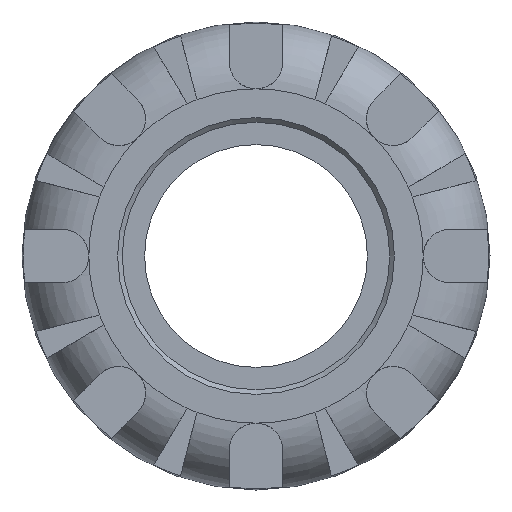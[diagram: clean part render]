
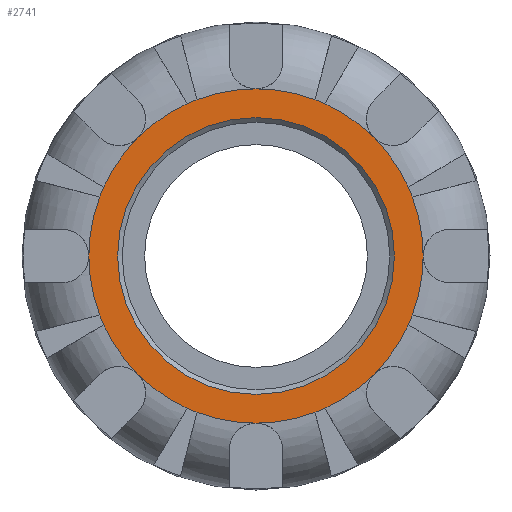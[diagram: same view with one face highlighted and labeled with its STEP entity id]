
A CAD part, left-side view. The second image highlights one B-rep face of the part: STEP entity #2741.
In plain terms, the highlighted planar face has unit normal (-1, 0, 0).
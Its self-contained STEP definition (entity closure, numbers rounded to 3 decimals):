
#22=FACE_BOUND('',#619,.T.);
#335=PLANE('',#2921);
#453=FACE_OUTER_BOUND('',#618,.T.);
#618=EDGE_LOOP('',(#1765,#1766,#1767,#1768,#1769,#1770,#1771,#1772,#1773,
#1774,#1775,#1776,#1777,#1778,#1779,#1780,#1781,#1782,#1783,#1784,#1785,
#1786,#1787,#1788));
#619=EDGE_LOOP('',(#1789));
#796=CIRCLE('',#2920,20.7);
#797=CIRCLE('',#2922,25.);
#798=CIRCLE('',#2923,25.);
#799=CIRCLE('',#2924,25.);
#800=CIRCLE('',#2925,25.);
#801=CIRCLE('',#2926,25.);
#802=CIRCLE('',#2927,25.);
#803=CIRCLE('',#2928,25.);
#804=CIRCLE('',#2929,25.);
#805=CIRCLE('',#2930,25.);
#806=CIRCLE('',#2931,25.);
#807=CIRCLE('',#2932,25.);
#808=CIRCLE('',#2933,25.);
#809=CIRCLE('',#2934,25.);
#810=CIRCLE('',#2935,25.);
#811=CIRCLE('',#2936,25.);
#812=CIRCLE('',#2937,25.);
#813=CIRCLE('',#2938,25.);
#814=CIRCLE('',#2939,25.);
#815=CIRCLE('',#2940,25.);
#816=CIRCLE('',#2941,25.);
#817=CIRCLE('',#2942,25.);
#818=CIRCLE('',#2943,25.);
#819=CIRCLE('',#2944,25.);
#820=CIRCLE('',#2945,25.);
#1066=VERTEX_POINT('',#4259);
#1067=VERTEX_POINT('',#4262);
#1068=VERTEX_POINT('',#4263);
#1069=VERTEX_POINT('',#4265);
#1070=VERTEX_POINT('',#4267);
#1071=VERTEX_POINT('',#4269);
#1072=VERTEX_POINT('',#4271);
#1073=VERTEX_POINT('',#4273);
#1074=VERTEX_POINT('',#4275);
#1075=VERTEX_POINT('',#4277);
#1076=VERTEX_POINT('',#4279);
#1077=VERTEX_POINT('',#4281);
#1078=VERTEX_POINT('',#4283);
#1079=VERTEX_POINT('',#4285);
#1080=VERTEX_POINT('',#4287);
#1081=VERTEX_POINT('',#4289);
#1082=VERTEX_POINT('',#4291);
#1083=VERTEX_POINT('',#4293);
#1084=VERTEX_POINT('',#4295);
#1085=VERTEX_POINT('',#4297);
#1086=VERTEX_POINT('',#4299);
#1087=VERTEX_POINT('',#4301);
#1088=VERTEX_POINT('',#4303);
#1089=VERTEX_POINT('',#4305);
#1090=VERTEX_POINT('',#4307);
#1336=EDGE_CURVE('',#1066,#1066,#796,.T.);
#1337=EDGE_CURVE('',#1067,#1068,#797,.T.);
#1338=EDGE_CURVE('',#1069,#1067,#798,.T.);
#1339=EDGE_CURVE('',#1070,#1069,#799,.T.);
#1340=EDGE_CURVE('',#1071,#1070,#800,.T.);
#1341=EDGE_CURVE('',#1072,#1071,#801,.T.);
#1342=EDGE_CURVE('',#1073,#1072,#802,.T.);
#1343=EDGE_CURVE('',#1074,#1073,#803,.T.);
#1344=EDGE_CURVE('',#1075,#1074,#804,.T.);
#1345=EDGE_CURVE('',#1076,#1075,#805,.T.);
#1346=EDGE_CURVE('',#1077,#1076,#806,.T.);
#1347=EDGE_CURVE('',#1078,#1077,#807,.T.);
#1348=EDGE_CURVE('',#1079,#1078,#808,.T.);
#1349=EDGE_CURVE('',#1080,#1079,#809,.T.);
#1350=EDGE_CURVE('',#1081,#1080,#810,.T.);
#1351=EDGE_CURVE('',#1082,#1081,#811,.T.);
#1352=EDGE_CURVE('',#1083,#1082,#812,.T.);
#1353=EDGE_CURVE('',#1084,#1083,#813,.T.);
#1354=EDGE_CURVE('',#1085,#1084,#814,.T.);
#1355=EDGE_CURVE('',#1086,#1085,#815,.T.);
#1356=EDGE_CURVE('',#1087,#1086,#816,.T.);
#1357=EDGE_CURVE('',#1088,#1087,#817,.T.);
#1358=EDGE_CURVE('',#1089,#1088,#818,.T.);
#1359=EDGE_CURVE('',#1090,#1089,#819,.T.);
#1360=EDGE_CURVE('',#1068,#1090,#820,.T.);
#1765=ORIENTED_EDGE('',*,*,#1337,.F.);
#1766=ORIENTED_EDGE('',*,*,#1338,.F.);
#1767=ORIENTED_EDGE('',*,*,#1339,.F.);
#1768=ORIENTED_EDGE('',*,*,#1340,.F.);
#1769=ORIENTED_EDGE('',*,*,#1341,.F.);
#1770=ORIENTED_EDGE('',*,*,#1342,.F.);
#1771=ORIENTED_EDGE('',*,*,#1343,.F.);
#1772=ORIENTED_EDGE('',*,*,#1344,.F.);
#1773=ORIENTED_EDGE('',*,*,#1345,.F.);
#1774=ORIENTED_EDGE('',*,*,#1346,.F.);
#1775=ORIENTED_EDGE('',*,*,#1347,.F.);
#1776=ORIENTED_EDGE('',*,*,#1348,.F.);
#1777=ORIENTED_EDGE('',*,*,#1349,.F.);
#1778=ORIENTED_EDGE('',*,*,#1350,.F.);
#1779=ORIENTED_EDGE('',*,*,#1351,.F.);
#1780=ORIENTED_EDGE('',*,*,#1352,.F.);
#1781=ORIENTED_EDGE('',*,*,#1353,.F.);
#1782=ORIENTED_EDGE('',*,*,#1354,.F.);
#1783=ORIENTED_EDGE('',*,*,#1355,.F.);
#1784=ORIENTED_EDGE('',*,*,#1356,.F.);
#1785=ORIENTED_EDGE('',*,*,#1357,.F.);
#1786=ORIENTED_EDGE('',*,*,#1358,.F.);
#1787=ORIENTED_EDGE('',*,*,#1359,.F.);
#1788=ORIENTED_EDGE('',*,*,#1360,.F.);
#1789=ORIENTED_EDGE('',*,*,#1336,.F.);
#2741=ADVANCED_FACE('',(#453,#22),#335,.T.);
#2920=AXIS2_PLACEMENT_3D('',#4260,#3271,#3272);
#2921=AXIS2_PLACEMENT_3D('',#4261,#3273,#3274);
#2922=AXIS2_PLACEMENT_3D('',#4264,#3275,#3276);
#2923=AXIS2_PLACEMENT_3D('',#4266,#3277,#3278);
#2924=AXIS2_PLACEMENT_3D('',#4268,#3279,#3280);
#2925=AXIS2_PLACEMENT_3D('',#4270,#3281,#3282);
#2926=AXIS2_PLACEMENT_3D('',#4272,#3283,#3284);
#2927=AXIS2_PLACEMENT_3D('',#4274,#3285,#3286);
#2928=AXIS2_PLACEMENT_3D('',#4276,#3287,#3288);
#2929=AXIS2_PLACEMENT_3D('',#4278,#3289,#3290);
#2930=AXIS2_PLACEMENT_3D('',#4280,#3291,#3292);
#2931=AXIS2_PLACEMENT_3D('',#4282,#3293,#3294);
#2932=AXIS2_PLACEMENT_3D('',#4284,#3295,#3296);
#2933=AXIS2_PLACEMENT_3D('',#4286,#3297,#3298);
#2934=AXIS2_PLACEMENT_3D('',#4288,#3299,#3300);
#2935=AXIS2_PLACEMENT_3D('',#4290,#3301,#3302);
#2936=AXIS2_PLACEMENT_3D('',#4292,#3303,#3304);
#2937=AXIS2_PLACEMENT_3D('',#4294,#3305,#3306);
#2938=AXIS2_PLACEMENT_3D('',#4296,#3307,#3308);
#2939=AXIS2_PLACEMENT_3D('',#4298,#3309,#3310);
#2940=AXIS2_PLACEMENT_3D('',#4300,#3311,#3312);
#2941=AXIS2_PLACEMENT_3D('',#4302,#3313,#3314);
#2942=AXIS2_PLACEMENT_3D('',#4304,#3315,#3316);
#2943=AXIS2_PLACEMENT_3D('',#4306,#3317,#3318);
#2944=AXIS2_PLACEMENT_3D('',#4308,#3319,#3320);
#2945=AXIS2_PLACEMENT_3D('',#4309,#3321,#3322);
#3271=DIRECTION('center_axis',(-1.,0.,0.));
#3272=DIRECTION('ref_axis',(0.,-1.,0.));
#3273=DIRECTION('center_axis',(-1.,0.,0.));
#3274=DIRECTION('ref_axis',(0.,0.,1.));
#3275=DIRECTION('center_axis',(1.,0.,0.));
#3276=DIRECTION('ref_axis',(0.,0.,-1.));
#3277=DIRECTION('center_axis',(1.,0.,0.));
#3278=DIRECTION('ref_axis',(0.,0.,-1.));
#3279=DIRECTION('center_axis',(1.,0.,0.));
#3280=DIRECTION('ref_axis',(0.,0.,-1.));
#3281=DIRECTION('center_axis',(1.,0.,0.));
#3282=DIRECTION('ref_axis',(0.,0.,-1.));
#3283=DIRECTION('center_axis',(1.,0.,0.));
#3284=DIRECTION('ref_axis',(0.,0.,-1.));
#3285=DIRECTION('center_axis',(1.,0.,0.));
#3286=DIRECTION('ref_axis',(0.,0.,-1.));
#3287=DIRECTION('center_axis',(1.,0.,0.));
#3288=DIRECTION('ref_axis',(0.,0.,-1.));
#3289=DIRECTION('center_axis',(1.,0.,0.));
#3290=DIRECTION('ref_axis',(0.,0.,-1.));
#3291=DIRECTION('center_axis',(1.,0.,0.));
#3292=DIRECTION('ref_axis',(0.,0.,-1.));
#3293=DIRECTION('center_axis',(1.,0.,0.));
#3294=DIRECTION('ref_axis',(0.,0.,-1.));
#3295=DIRECTION('center_axis',(1.,0.,0.));
#3296=DIRECTION('ref_axis',(0.,0.,-1.));
#3297=DIRECTION('center_axis',(1.,0.,0.));
#3298=DIRECTION('ref_axis',(0.,0.,-1.));
#3299=DIRECTION('center_axis',(1.,0.,0.));
#3300=DIRECTION('ref_axis',(0.,0.,-1.));
#3301=DIRECTION('center_axis',(1.,0.,0.));
#3302=DIRECTION('ref_axis',(0.,0.,-1.));
#3303=DIRECTION('center_axis',(1.,0.,0.));
#3304=DIRECTION('ref_axis',(0.,0.,-1.));
#3305=DIRECTION('center_axis',(1.,0.,0.));
#3306=DIRECTION('ref_axis',(0.,0.,-1.));
#3307=DIRECTION('center_axis',(1.,0.,0.));
#3308=DIRECTION('ref_axis',(0.,0.,-1.));
#3309=DIRECTION('center_axis',(1.,0.,0.));
#3310=DIRECTION('ref_axis',(0.,0.,-1.));
#3311=DIRECTION('center_axis',(1.,0.,0.));
#3312=DIRECTION('ref_axis',(0.,0.,-1.));
#3313=DIRECTION('center_axis',(1.,0.,0.));
#3314=DIRECTION('ref_axis',(0.,0.,-1.));
#3315=DIRECTION('center_axis',(1.,0.,0.));
#3316=DIRECTION('ref_axis',(0.,0.,-1.));
#3317=DIRECTION('center_axis',(1.,0.,0.));
#3318=DIRECTION('ref_axis',(0.,0.,-1.));
#3319=DIRECTION('center_axis',(1.,0.,0.));
#3320=DIRECTION('ref_axis',(0.,0.,-1.));
#3321=DIRECTION('center_axis',(1.,0.,0.));
#3322=DIRECTION('ref_axis',(0.,0.,-1.));
#4259=CARTESIAN_POINT('',(-71.,20.7,0.));
#4260=CARTESIAN_POINT('Origin',(-71.,0.,0.));
#4261=CARTESIAN_POINT('Origin',(-71.,25.,0.));
#4262=CARTESIAN_POINT('',(-71.,25.,0.));
#4263=CARTESIAN_POINT('',(-71.,23.391,8.823));
#4264=CARTESIAN_POINT('Origin',(-71.,0.,0.));
#4265=CARTESIAN_POINT('',(-71.,23.391,-8.823));
#4266=CARTESIAN_POINT('Origin',(-71.,0.,0.));
#4267=CARTESIAN_POINT('',(-71.,22.779,-10.301));
#4268=CARTESIAN_POINT('Origin',(-71.,0.,0.));
#4269=CARTESIAN_POINT('',(-71.,17.678,-17.678));
#4270=CARTESIAN_POINT('Origin',(-71.,0.,0.));
#4271=CARTESIAN_POINT('',(-71.,10.301,-22.779));
#4272=CARTESIAN_POINT('Origin',(-71.,0.,0.));
#4273=CARTESIAN_POINT('',(-71.,8.823,-23.391));
#4274=CARTESIAN_POINT('Origin',(-71.,0.,0.));
#4275=CARTESIAN_POINT('',(-71.,0.,-25.));
#4276=CARTESIAN_POINT('Origin',(-71.,0.,0.));
#4277=CARTESIAN_POINT('',(-71.,-8.823,-23.391));
#4278=CARTESIAN_POINT('Origin',(-71.,0.,0.));
#4279=CARTESIAN_POINT('',(-71.,-10.301,-22.779));
#4280=CARTESIAN_POINT('Origin',(-71.,0.,0.));
#4281=CARTESIAN_POINT('',(-71.,-17.678,-17.678));
#4282=CARTESIAN_POINT('Origin',(-71.,0.,0.));
#4283=CARTESIAN_POINT('',(-71.,-22.779,-10.301));
#4284=CARTESIAN_POINT('Origin',(-71.,0.,0.));
#4285=CARTESIAN_POINT('',(-71.,-23.391,-8.823));
#4286=CARTESIAN_POINT('Origin',(-71.,0.,0.));
#4287=CARTESIAN_POINT('',(-71.,-25.,0.));
#4288=CARTESIAN_POINT('Origin',(-71.,0.,0.));
#4289=CARTESIAN_POINT('',(-71.,-23.391,8.823));
#4290=CARTESIAN_POINT('Origin',(-71.,0.,0.));
#4291=CARTESIAN_POINT('',(-71.,-22.779,10.301));
#4292=CARTESIAN_POINT('Origin',(-71.,0.,0.));
#4293=CARTESIAN_POINT('',(-71.,-17.678,17.678));
#4294=CARTESIAN_POINT('Origin',(-71.,0.,0.));
#4295=CARTESIAN_POINT('',(-71.,-10.301,22.779));
#4296=CARTESIAN_POINT('Origin',(-71.,0.,0.));
#4297=CARTESIAN_POINT('',(-71.,-8.823,23.391));
#4298=CARTESIAN_POINT('Origin',(-71.,0.,0.));
#4299=CARTESIAN_POINT('',(-71.,0.,25.));
#4300=CARTESIAN_POINT('Origin',(-71.,0.,0.));
#4301=CARTESIAN_POINT('',(-71.,8.823,23.391));
#4302=CARTESIAN_POINT('Origin',(-71.,0.,0.));
#4303=CARTESIAN_POINT('',(-71.,10.301,22.779));
#4304=CARTESIAN_POINT('Origin',(-71.,0.,0.));
#4305=CARTESIAN_POINT('',(-71.,17.678,17.678));
#4306=CARTESIAN_POINT('Origin',(-71.,0.,0.));
#4307=CARTESIAN_POINT('',(-71.,22.779,10.301));
#4308=CARTESIAN_POINT('Origin',(-71.,0.,0.));
#4309=CARTESIAN_POINT('Origin',(-71.,0.,0.));
